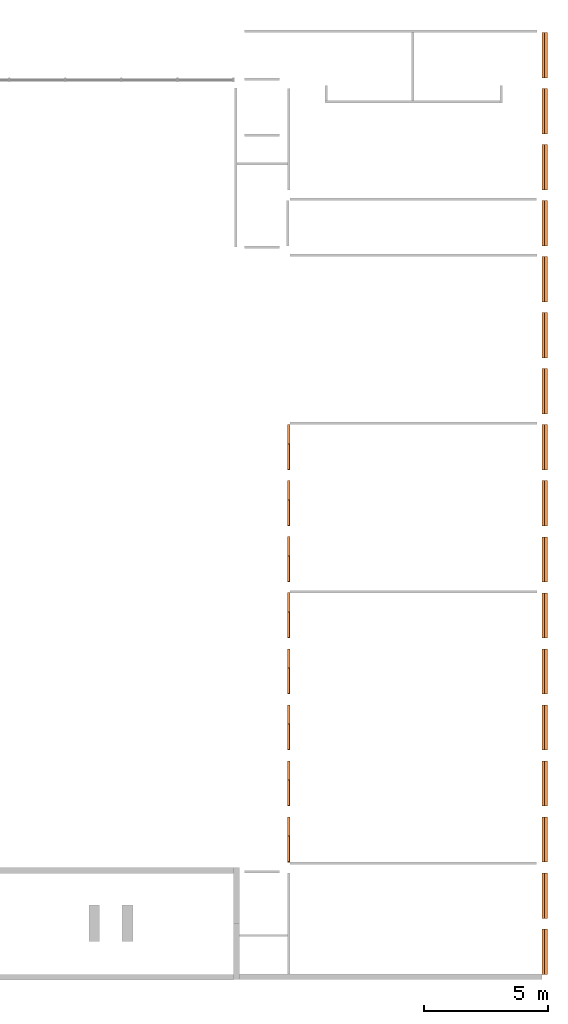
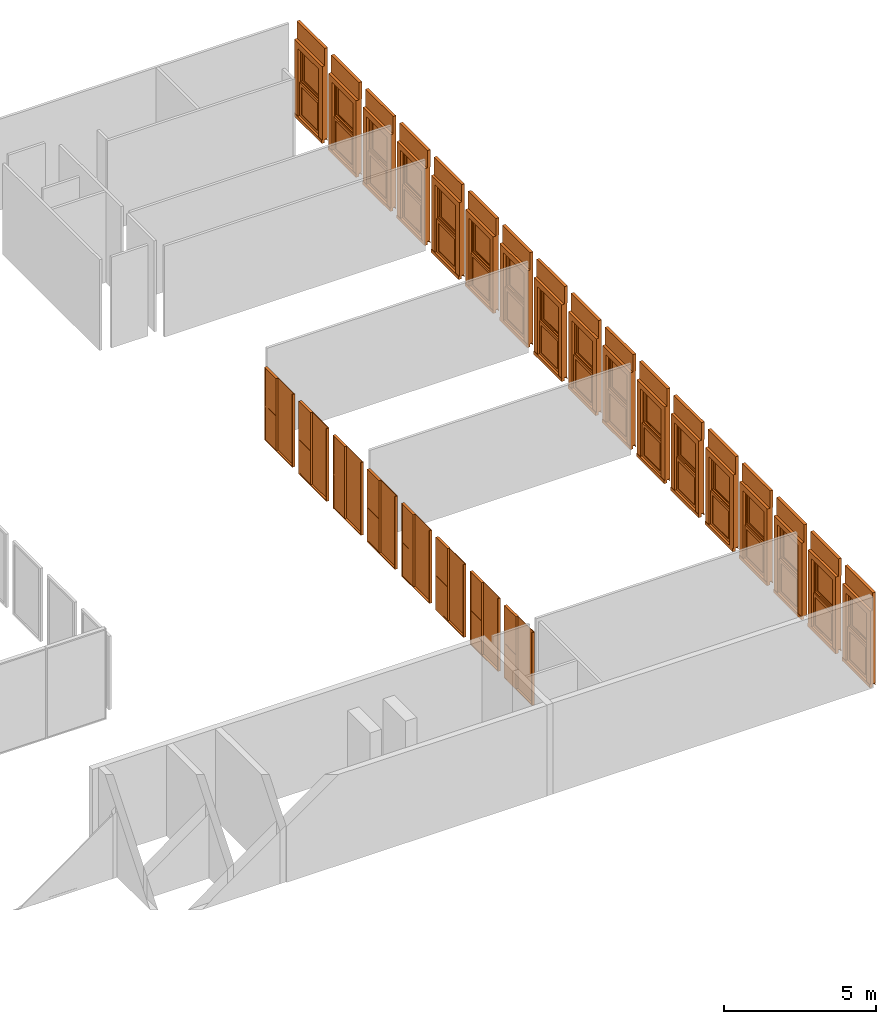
# One storey, part 15 of 15: 25 proxies.
"""IFC2X3 building model written with IfcOpenShell, lengths in millimetres."""

from ifc_helpers import new_model, entity, si_unit, converted_unit, derived_unit, direction, frame, frame_2d, origin, origin_2d_with_axis, place, context, subcontext, project, spatial, polyline, rectangle, outline, extrude, source, transform, mapped, material, material_list, type_object, type_shapes, element, save


model = new_model("IFC2X3")

# Units and contexts
model_context = context("Model", 3, precision=0.01, world=origin(), true_north=direction((6.12303176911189e-17, 1.0)))
body_context = subcontext(model_context, "Body", "Model", "MODEL_VIEW")
ifc_project = project(units=[si_unit("LENGTHUNIT", "METRE", prefix="MILLI"), si_unit("AREAUNIT", "SQUARE_METRE"), si_unit("VOLUMEUNIT", "CUBIC_METRE"), converted_unit("PLANEANGLEUNIT", "DEGREE", entity("IfcRatioMeasure", 0.0174532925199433), si_unit("PLANEANGLEUNIT", "RADIAN"), dimensions=[0, 0, 0, 0, 0, 0, 0]), si_unit("MASSUNIT", "GRAM", prefix="KILO"), derived_unit("MASSDENSITYUNIT", [(si_unit("MASSUNIT", "GRAM", prefix="KILO"), 1), (si_unit("LENGTHUNIT", "METRE"), -3)]), derived_unit("MOMENTOFINERTIAUNIT", [(si_unit("LENGTHUNIT", "METRE"), 4)]), si_unit("TIMEUNIT", "SECOND"), si_unit("FREQUENCYUNIT", "HERTZ"), si_unit("THERMODYNAMICTEMPERATUREUNIT", "DEGREE_CELSIUS"), derived_unit("THERMALTRANSMITTANCEUNIT", [(si_unit("MASSUNIT", "GRAM", prefix="KILO"), 1), (si_unit("THERMODYNAMICTEMPERATUREUNIT", "KELVIN"), -1), (si_unit("TIMEUNIT", "SECOND"), -3)]), derived_unit("VOLUMETRICFLOWRATEUNIT", [(si_unit("LENGTHUNIT", "METRE"), 3), (si_unit("TIMEUNIT", "SECOND"), -1)]), si_unit("ELECTRICCURRENTUNIT", "AMPERE"), si_unit("ELECTRICVOLTAGEUNIT", "VOLT"), si_unit("POWERUNIT", "WATT"), si_unit("FORCEUNIT", "NEWTON", prefix="KILO"), si_unit("ILLUMINANCEUNIT", "LUX"), si_unit("LUMINOUSFLUXUNIT", "LUMEN"), si_unit("LUMINOUSINTENSITYUNIT", "CANDELA"), derived_unit("USERDEFINED", [(si_unit("MASSUNIT", "GRAM", prefix="KILO"), -1), (si_unit("LENGTHUNIT", "METRE"), -2), (si_unit("TIMEUNIT", "SECOND"), 3), (si_unit("LUMINOUSFLUXUNIT", "LUMEN"), 1)]), derived_unit("LINEARVELOCITYUNIT", [(si_unit("LENGTHUNIT", "METRE"), 1), (si_unit("TIMEUNIT", "SECOND"), -1)]), si_unit("PRESSUREUNIT", "PASCAL"), derived_unit("USERDEFINED", [(si_unit("LENGTHUNIT", "METRE"), -2), (si_unit("MASSUNIT", "GRAM", prefix="KILO"), 1), (si_unit("TIMEUNIT", "SECOND"), -2)]), derived_unit("LINEARFORCEUNIT", [(si_unit("MASSUNIT", "GRAM", prefix="KILO"), 1), (si_unit("LENGTHUNIT", "METRE"), 1), (si_unit("TIMEUNIT", "SECOND"), -2), (si_unit("LENGTHUNIT", "METRE"), -1)]), derived_unit("PLANARFORCEUNIT", [(si_unit("MASSUNIT", "GRAM", prefix="KILO"), 1), (si_unit("LENGTHUNIT", "METRE"), 1), (si_unit("TIMEUNIT", "SECOND"), -2), (si_unit("LENGTHUNIT", "METRE"), -2)])], contexts=[model_context])

# Site, building, storey
site_placement = place(None, frame((10627.5135316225, 21939.0796949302, 0.0)))
site = spatial("IfcSite", under=ifc_project, at=site_placement, Name="Default", CompositionType="ELEMENT")
building_placement = place(site_placement, origin())
building = spatial("IfcBuilding", under=site, at=building_placement, CompositionType="ELEMENT")
storey_placement = place(building_placement, origin())
storey = spatial("IfcBuildingStorey", under=building, at=storey_placement, Name="RDC", CompositionType="ELEMENT", Elevation=0.0)

# Proxies
ifc_material_1 = material(Name="PVC, Flexible")
ifc_material_2 = material(Name="Glass")
ifc_material_list_1 = material_list([ifc_material_1, ifc_material_2])
building_element_proxy_type_1 = type_object("IfcBuildingElementProxyType", Name="FENETRE.dwg:Fenetre ext 296+70", PredefinedType="NOTDEFINED", material=ifc_material_1)
shared_shape_1 = source(origin(), body_context, "Body", "SweptSolid", [
    extrude(rectangle(XDim=112.500043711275, YDim=1829.99999999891, at=origin_2d_with_axis()), frame((-10.4189092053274, -56.2500218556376, 2960.0), z_axis=(0.0, 0.0, 1.0), x_axis=(0.0, 1.0, 0.0)), (0.0, 0.0, 1.0), 700.0),
    extrude(outline(polyline([(27.5499763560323, -64.4170494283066), (47.5499763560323, -64.4170494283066), (47.5499763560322, -59.4170494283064), (28.7622905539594, -59.4170494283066), (7.54997635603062, 46.6946996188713), (-42.4500236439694, 46.6946996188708), (-42.4500236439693, 32.9446996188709), (-39.9500236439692, 32.9446996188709), (-39.9500236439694, 44.1946996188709), (5.83789859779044, 44.1946996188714), (27.5499763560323, -64.4170494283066)])), frame((-925.418909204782, -66.917049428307, -47.5499763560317), z_axis=(1.0, 0.0, 0.0), x_axis=(0.0, 0.0, 1.0)), (0.0, 0.0, 1.0), 1829.99999999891),
    extrude(outline(polyline([(-54.506636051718, -66.1431859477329), (58.0333803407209, -66.1431859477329), (54.4666704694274, 67.6422744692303), (-57.9934147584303, 64.6440974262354), (-54.506636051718, -66.1431859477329)])), frame((-925.418909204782, 56.2500218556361, -63.833312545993), z_axis=(1.0, 0.0, 0.0), x_axis=(0.0, -0.999644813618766, 0.0266504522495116)), (0.0, 0.0, 1.0), 1829.99999999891),
    extrude(outline(polyline([(-97.0007159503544, -55.5555555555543), (5.85738417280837, -55.5555555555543), (95.357341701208, -55.5555555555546), (95.357341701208, -45.5555555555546), (105.357341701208, -45.5555555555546), (105.357341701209, 174.444444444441), (-106.642659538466, 174.444444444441), (-106.642659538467, -45.5555555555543), (-97.0007159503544, -45.5555555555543), (-97.0007159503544, -55.5555555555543)])), frame((849.025535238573, -5.85738417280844, 0.0), z_axis=(0.0, 0.0, 1.0), x_axis=(0.0, 1.0, 0.0)), (0.0, 0.0, 1.0), 2960.0),
    extrude(rectangle(XDim=1369.99999999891, YDim=199.499957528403, at=origin_2d_with_axis()), frame((-10.4189092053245, -0.250021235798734, 2730.0), z_axis=(0.0, 0.0, 1.0), x_axis=(-1.0, 0.0, 0.0)), (0.0, 0.0, 1.0), 230.000000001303),
    extrude(outline(polyline([(-55.5555555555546, 97.0007159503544), (-55.5555555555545, -5.85738417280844), (-55.5555555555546, -95.357341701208), (-45.5555555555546, -95.3573417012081), (-45.5555555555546, -105.357341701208), (174.444444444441, -105.357341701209), (174.444444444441, 106.642659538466), (-45.5555555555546, 106.642659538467), (-45.5555555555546, 97.0007159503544), (-55.5555555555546, 97.0007159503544)])), frame((-869.863353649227, -5.85738417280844, 0.0), z_axis=(0.0, 0.0, -1.0), x_axis=(1.0, 0.0, 0.0)), (0.0, 0.0, -1.0), 2960.0),
    extrude(rectangle(XDim=1079.99999999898, YDim=1.0, at=origin_2d_with_axis()), frame((-10.4189092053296, 19.5, 130.0), z_axis=(0.0, 0.0, 1.0), x_axis=(-1.0, 0.0, 0.0)), (0.0, 0.0, 1.0), 1120.00000000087),
    extrude(rectangle(XDim=1079.99999999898, YDim=1.0, at=origin_2d_with_axis()), frame((-10.4189092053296, 30.5, 130.0), z_axis=(0.0, 0.0, 1.0), x_axis=(-1.0, 0.0, 0.0)), (0.0, 0.0, 1.0), 1120.00000000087),
    extrude(rectangle(XDim=1079.99999999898, YDim=1.0, at=frame_2d((0.0, 4.21884749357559e-15), x_axis=(1.0, 0.0))), frame((-10.4189092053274, -69.5, 1465.0), z_axis=(0.0, 0.0, 1.0), x_axis=(-1.0, 0.0, 0.0)), (0.0, 0.0, 1.0), 1120.0),
    extrude(rectangle(XDim=1079.99999999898, YDim=0.999999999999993, at=frame_2d((0.0, -8.46545056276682e-15), x_axis=(1.0, 0.0))), frame((-10.4189092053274, -80.5, 1465.0), z_axis=(0.0, 0.0, 1.0), x_axis=(-1.0, 0.0, 0.0)), (0.0, 0.0, 1.0), 1120.00000000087),
    extrude(outline(polyline([(-685.0, -1365.0), (0.0, -1365.0), (685.0, -1365.0), (685.0, 1365.0), (0.0, 1365.0), (-685.0, 1365.0), (-685.0, -1365.0)]), holes=[polyline([(-640.0, -1320.0), (-640.0, -45.0), (0.0, -45.0), (640.0, -45.0), (640.0, -1320.0), (0.0, -1320.0), (-640.0, -1320.0)]), polyline([(-640.0, 40.0), (-640.0, 1315.0), (0.0, 1315.0), (640.0, 1315.0), (640.0, 40.0), (0.0, 40.0), (-640.0, 40.0)])]), frame((-10.4189092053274, -50.0, 1365.0), z_axis=(0.0, 1.0, 0.0), x_axis=(1.0, 0.0, 0.0)), (0.0, 0.0, 1.0), 50.0),
    extrude(outline(polyline([(-655.0, -667.500000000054), (655.0, -667.500000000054), (655.0, 667.500000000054), (-655.0, 667.500000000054), (-655.0, -667.500000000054)]), holes=[polyline([(-540.0, 552.500000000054), (540.0, 552.500000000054), (540.0, -567.500000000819), (-540.0, -567.500000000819), (-540.0, 552.500000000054)])]), frame((-10.4189092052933, 0.0, 697.500000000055), z_axis=(0.0, 1.0, 0.0), x_axis=(-1.0, 0.0, 0.0)), (0.0, 0.0, 1.0), 50.0),
    extrude(outline(polyline([(-655.0, -667.500000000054), (655.0, -667.500000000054), (655.0, 667.500000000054), (-655.0, 667.500000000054), (-655.0, -667.500000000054)]), holes=[polyline([(-540.0, 552.500000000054), (540.0, 552.500000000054), (540.0, -567.500000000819), (-540.0, -567.500000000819), (-540.0, 552.500000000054)])]), frame((-10.4189092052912, -100.0, 2032.50000000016), z_axis=(0.0, 1.0, 0.0), x_axis=(-1.0, 0.0, 0.0)), (0.0, 0.0, 1.0), 50.0),
])
type_shapes(building_element_proxy_type_1, [shared_shape_1])
proxy_1_placement = place(storey_placement, frame((63883.8747193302, 15361.3392142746, 0.0), z_axis=(0.0, 0.0, 1.0), x_axis=(0.0, 1.0, 0.0)))
element("IfcBuildingElementProxy", 1, at=proxy_1_placement, inside=storey, type_object=building_element_proxy_type_1, material=ifc_material_list_1, Name="FENETRE.dwg:Fenetre ext 296+70", ObjectType="FENETRE.dwg:Fenetre ext 296+70", context=body_context, shape_type="MappedRepresentation", body=[
    mapped(shared_shape_1, transform((0.0, 0.0, 0.0), scale=1.0)),
])
ifc_material_list_2 = material_list([ifc_material_1, ifc_material_2])
proxy_2_placement = place(storey_placement, frame((63883.8747193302, 13101.3392142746, 0.0), z_axis=(0.0, 0.0, 1.0), x_axis=(0.0, 1.0, 0.0)))
element("IfcBuildingElementProxy", 2, at=proxy_2_placement, inside=storey, type_object=building_element_proxy_type_1, material=ifc_material_list_2, Name="FENETRE.dwg:Fenetre ext 296+70", ObjectType="FENETRE.dwg:Fenetre ext 296+70", context=body_context, shape_type="MappedRepresentation", body=[
    mapped(shared_shape_1, transform((0.0, 0.0, 0.0), scale=1.0)),
])
ifc_material_list_3 = material_list([ifc_material_1, ifc_material_2])
proxy_3_placement = place(storey_placement, frame((63883.8747193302, 10841.3392142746, 0.0), z_axis=(0.0, 0.0, 1.0), x_axis=(0.0, 1.0, 0.0)))
element("IfcBuildingElementProxy", 3, at=proxy_3_placement, inside=storey, type_object=building_element_proxy_type_1, material=ifc_material_list_3, Name="FENETRE.dwg:Fenetre ext 296+70", ObjectType="FENETRE.dwg:Fenetre ext 296+70", context=body_context, shape_type="MappedRepresentation", body=[
    mapped(shared_shape_1, transform((0.0, 0.0, 0.0), scale=1.0)),
])
ifc_material_list_4 = material_list([ifc_material_1, ifc_material_2])
proxy_4_placement = place(storey_placement, frame((63883.8747193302, 8581.33921427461, 0.0), z_axis=(0.0, 0.0, 1.0), x_axis=(0.0, 1.0, 0.0)))
element("IfcBuildingElementProxy", 4, at=proxy_4_placement, inside=storey, type_object=building_element_proxy_type_1, material=ifc_material_list_4, Name="FENETRE.dwg:Fenetre ext 296+70", ObjectType="FENETRE.dwg:Fenetre ext 296+70", context=body_context, shape_type="MappedRepresentation", body=[
    mapped(shared_shape_1, transform((0.0, 0.0, 0.0), scale=1.0)),
])
ifc_material_list_5 = material_list([ifc_material_1, ifc_material_2])
proxy_5_placement = place(storey_placement, frame((63883.8747193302, 6321.33921427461, 0.0), z_axis=(0.0, 0.0, 1.0), x_axis=(0.0, 1.0, 0.0)))
element("IfcBuildingElementProxy", 5, at=proxy_5_placement, inside=storey, type_object=building_element_proxy_type_1, material=ifc_material_list_5, Name="FENETRE.dwg:Fenetre ext 296+70", ObjectType="FENETRE.dwg:Fenetre ext 296+70", context=body_context, shape_type="MappedRepresentation", body=[
    mapped(shared_shape_1, transform((0.0, 0.0, 0.0), scale=1.0)),
])
ifc_material_list_6 = material_list([ifc_material_1, ifc_material_2])
proxy_6_placement = place(storey_placement, frame((63883.8747193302, 4061.33921427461, 0.0), z_axis=(0.0, 0.0, 1.0), x_axis=(0.0, 1.0, 0.0)))
element("IfcBuildingElementProxy", 6, at=proxy_6_placement, inside=storey, type_object=building_element_proxy_type_1, material=ifc_material_list_6, Name="FENETRE.dwg:Fenetre ext 296+70", ObjectType="FENETRE.dwg:Fenetre ext 296+70", context=body_context, shape_type="MappedRepresentation", body=[
    mapped(shared_shape_1, transform((0.0, 0.0, 0.0), scale=1.0)),
])
ifc_material_list_7 = material_list([ifc_material_1, ifc_material_2])
proxy_7_placement = place(storey_placement, frame((63883.8747193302, 1801.33921427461, 0.0), z_axis=(0.0, 0.0, 1.0), x_axis=(0.0, 1.0, 0.0)))
element("IfcBuildingElementProxy", 7, at=proxy_7_placement, inside=storey, type_object=building_element_proxy_type_1, material=ifc_material_list_7, Name="FENETRE.dwg:Fenetre ext 296+70", ObjectType="FENETRE.dwg:Fenetre ext 296+70", context=body_context, shape_type="MappedRepresentation", body=[
    mapped(shared_shape_1, transform((0.0, 0.0, 0.0), scale=1.0)),
])
ifc_material_list_8 = material_list([ifc_material_1, ifc_material_2])
proxy_8_placement = place(storey_placement, frame((63883.8747193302, -458.660785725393, 0.0), z_axis=(0.0, 0.0, 1.0), x_axis=(0.0, 1.0, 0.0)))
element("IfcBuildingElementProxy", 8, at=proxy_8_placement, inside=storey, type_object=building_element_proxy_type_1, material=ifc_material_list_8, Name="FENETRE.dwg:Fenetre ext 296+70", ObjectType="FENETRE.dwg:Fenetre ext 296+70", context=body_context, shape_type="MappedRepresentation", body=[
    mapped(shared_shape_1, transform((0.0, 0.0, 0.0), scale=1.0)),
])
ifc_material_list_9 = material_list([ifc_material_1, ifc_material_2])
proxy_9_placement = place(storey_placement, frame((63883.8747193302, -2718.66078572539, 0.0), z_axis=(0.0, 0.0, 1.0), x_axis=(0.0, 1.0, 0.0)))
element("IfcBuildingElementProxy", 9, at=proxy_9_placement, inside=storey, type_object=building_element_proxy_type_1, material=ifc_material_list_9, Name="FENETRE.dwg:Fenetre ext 296+70", ObjectType="FENETRE.dwg:Fenetre ext 296+70", context=body_context, shape_type="MappedRepresentation", body=[
    mapped(shared_shape_1, transform((0.0, 0.0, 0.0), scale=1.0)),
])
ifc_material_list_10 = material_list([ifc_material_1, ifc_material_2])
proxy_10_placement = place(storey_placement, frame((63883.8747193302, -4978.6607857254, 0.0), z_axis=(0.0, 0.0, 1.0), x_axis=(0.0, 1.0, 0.0)))
element("IfcBuildingElementProxy", 10, at=proxy_10_placement, inside=storey, type_object=building_element_proxy_type_1, material=ifc_material_list_10, Name="FENETRE.dwg:Fenetre ext 296+70", ObjectType="FENETRE.dwg:Fenetre ext 296+70", context=body_context, shape_type="MappedRepresentation", body=[
    mapped(shared_shape_1, transform((0.0, 0.0, 0.0), scale=1.0)),
])
ifc_material_list_11 = material_list([ifc_material_1, ifc_material_2])
proxy_11_placement = place(storey_placement, frame((63883.8747193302, -7238.6607857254, 0.0), z_axis=(0.0, 0.0, 1.0), x_axis=(0.0, 1.0, 0.0)))
element("IfcBuildingElementProxy", 11, at=proxy_11_placement, inside=storey, type_object=building_element_proxy_type_1, material=ifc_material_list_11, Name="FENETRE.dwg:Fenetre ext 296+70", ObjectType="FENETRE.dwg:Fenetre ext 296+70", context=body_context, shape_type="MappedRepresentation", body=[
    mapped(shared_shape_1, transform((0.0, 0.0, 0.0), scale=1.0)),
])
ifc_material_list_12 = material_list([ifc_material_1, ifc_material_2])
proxy_12_placement = place(storey_placement, frame((63883.8747193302, -9498.6607857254, 0.0), z_axis=(0.0, 0.0, 1.0), x_axis=(0.0, 1.0, 0.0)))
element("IfcBuildingElementProxy", 12, at=proxy_12_placement, inside=storey, type_object=building_element_proxy_type_1, material=ifc_material_list_12, Name="FENETRE.dwg:Fenetre ext 296+70", ObjectType="FENETRE.dwg:Fenetre ext 296+70", context=body_context, shape_type="MappedRepresentation", body=[
    mapped(shared_shape_1, transform((0.0, 0.0, 0.0), scale=1.0)),
])
ifc_material_list_13 = material_list([ifc_material_1, ifc_material_2])
proxy_13_placement = place(storey_placement, frame((63883.8747193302, -11758.6607857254, 0.0), z_axis=(0.0, 0.0, 1.0), x_axis=(0.0, 1.0, 0.0)))
element("IfcBuildingElementProxy", 13, at=proxy_13_placement, inside=storey, type_object=building_element_proxy_type_1, material=ifc_material_list_13, Name="FENETRE.dwg:Fenetre ext 296+70", ObjectType="FENETRE.dwg:Fenetre ext 296+70", context=body_context, shape_type="MappedRepresentation", body=[
    mapped(shared_shape_1, transform((0.0, 0.0, 0.0), scale=1.0)),
])
ifc_material_list_14 = material_list([ifc_material_1, ifc_material_2])
proxy_14_placement = place(storey_placement, frame((63883.8747193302, -14018.6607857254, 0.0), z_axis=(0.0, 0.0, 1.0), x_axis=(0.0, 1.0, 0.0)))
element("IfcBuildingElementProxy", 14, at=proxy_14_placement, inside=storey, type_object=building_element_proxy_type_1, material=ifc_material_list_14, Name="FENETRE.dwg:Fenetre ext 296+70", ObjectType="FENETRE.dwg:Fenetre ext 296+70", context=body_context, shape_type="MappedRepresentation", body=[
    mapped(shared_shape_1, transform((0.0, 0.0, 0.0), scale=1.0)),
])
ifc_material_list_15 = material_list([ifc_material_1, ifc_material_2])
proxy_15_placement = place(storey_placement, frame((63883.8747193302, -16278.6607857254, 0.0), z_axis=(0.0, 0.0, 1.0), x_axis=(0.0, 1.0, 0.0)))
element("IfcBuildingElementProxy", 15, at=proxy_15_placement, inside=storey, type_object=building_element_proxy_type_1, material=ifc_material_list_15, Name="FENETRE.dwg:Fenetre ext 296+70", ObjectType="FENETRE.dwg:Fenetre ext 296+70", context=body_context, shape_type="MappedRepresentation", body=[
    mapped(shared_shape_1, transform((0.0, 0.0, 0.0), scale=1.0)),
])
ifc_material_list_16 = material_list([ifc_material_1, ifc_material_2])
proxy_16_placement = place(storey_placement, frame((63883.8747193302, -18538.6607857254, 0.0), z_axis=(0.0, 0.0, 1.0), x_axis=(0.0, 1.0, 0.0)))
element("IfcBuildingElementProxy", 16, at=proxy_16_placement, inside=storey, type_object=building_element_proxy_type_1, material=ifc_material_list_16, Name="FENETRE.dwg:Fenetre ext 296+70", ObjectType="FENETRE.dwg:Fenetre ext 296+70", context=body_context, shape_type="MappedRepresentation", body=[
    mapped(shared_shape_1, transform((0.0, 0.0, 0.0), scale=1.0)),
])
ifc_material_list_17 = material_list([ifc_material_1, ifc_material_2])
proxy_17_placement = place(storey_placement, frame((63883.8747193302, -20798.6607857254, 0.0), z_axis=(0.0, 0.0, 1.0), x_axis=(0.0, 1.0, 0.0)))
element("IfcBuildingElementProxy", 17, at=proxy_17_placement, inside=storey, type_object=building_element_proxy_type_1, material=ifc_material_list_17, Name="FENETRE.dwg:Fenetre ext 296+70", ObjectType="FENETRE.dwg:Fenetre ext 296+70", context=body_context, shape_type="MappedRepresentation", body=[
    mapped(shared_shape_1, transform((0.0, 0.0, 0.0), scale=1.0)),
])
ifc_material_3 = material(Name="Plywood, Sheathing")
ifc_material_list_18 = material_list([ifc_material_3, ifc_material_2])
building_element_proxy_type_2 = type_object("IfcBuildingElementProxyType", Name="Porte noire:Porte noire", PredefinedType="NOTDEFINED", material=ifc_material_3)
shared_shape_2 = source(origin(), body_context, "Body", "SweptSolid", [
    extrude(rectangle(XDim=100.0, YDim=23.0000000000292, at=origin_2d_with_axis()), frame((-950.918997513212, -50.0, 8.73189890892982), z_axis=(0.0, 0.0, 1.0), x_axis=(0.0, 1.0, 0.0)), (0.0, 0.0, 1.0), 2933.34951039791),
    extrude(rectangle(XDim=19.0, YDim=1038.0, at=frame_2d((7.99360577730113e-15, 0.0), x_axis=(1.0, 0.0))), frame((-420.418997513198, -87.5, 43.7318989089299), z_axis=(0.0, 0.0, 1.0), x_axis=(0.0, 1.0, 0.0)), (0.0, 0.0, 1.0), 2898.5),
    extrude(rectangle(XDim=100.0, YDim=1775.0, at=origin_2d_with_axis()), frame((-51.9189975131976, -50.0, 8.73189890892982), z_axis=(0.0, 0.0, 1.0), x_axis=(0.0, 1.0, 0.0)), (0.0, 0.0, 1.0), 35.0000000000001),
    extrude(rectangle(XDim=100.0, YDim=35.0000000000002, at=origin_2d_with_axis()), frame((853.081002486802, -50.0, 8.73189890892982), z_axis=(0.0, 0.0, 1.0), x_axis=(0.0, 1.0, 0.0)), (0.0, 0.0, 1.0), 2898.5),
    extrude(rectangle(XDim=100.0, YDim=740.0, at=origin_2d_with_axis()), frame((500.581002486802, -50.0, 2907.23189890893), z_axis=(0.0, 0.0, 1.0), x_axis=(0.0, 1.0, 0.0)), (0.0, 0.0, 1.0), 35.0000000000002),
    extrude(rectangle(XDim=100.0, YDim=31.9999999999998, at=origin_2d_with_axis()), frame((114.581002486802, -50.0, 43.7318989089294), z_axis=(0.0, 0.0, 1.0), x_axis=(0.0, 1.0, 0.0)), (0.0, 0.0, 1.0), 2898.5),
    extrude(rectangle(XDim=100.0, YDim=705.0, at=origin_2d_with_axis()), frame((483.081002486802, -50.0, 1343.73189890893), z_axis=(0.0, 0.0, 1.0), x_axis=(0.0, 1.0, 0.0)), (0.0, 0.0, 1.0), 55.0),
    extrude(outline(polyline([(-352.5, -650.0), (352.5, -650.0), (352.5, 650.0), (-352.5, 650.0), (-352.5, -650.0)]), holes=[polyline([(342.5, 640.0), (342.5, -640.0), (-342.5, -640.0), (-342.5, 640.0), (342.5, 640.0)])]), frame((483.081002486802, -80.0, 693.73189890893), z_axis=(0.0, 1.0, 0.0), x_axis=(1.0, 0.0, 0.0)), (0.0, 0.0, 1.0), 70.0),
    extrude(outline(polyline([(-754.25, -352.5), (754.25, -352.5), (754.25, 352.5), (-754.25, 352.5), (-754.25, -352.5)]), holes=[polyline([(744.25, 342.5), (744.25, -342.5), (-744.25, -342.5), (-744.25, 342.5), (744.25, 342.5)])]), frame((483.081002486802, -80.0, 2152.98189890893), z_axis=(0.0, 1.0, 0.0), x_axis=(0.0, 0.0, 1.0)), (0.0, 0.0, 1.0), 70.0),
    extrude(outline(polyline([(-640.0, -342.5), (640.0, -342.5), (640.0, 342.5), (-640.0, 342.5), (-640.0, -342.5)]), holes=[polyline([(630.0, 332.5), (630.0, -332.5), (-630.0, -332.5), (-630.0, 332.5), (630.0, 332.5)])]), frame((483.081002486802, -81.0, 693.731898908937), z_axis=(0.0, 1.0, 0.0), x_axis=(0.0, 0.0, 1.0)), (0.0, 0.0, 1.0), 3.99999999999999),
    extrude(outline(polyline([(-744.25, -342.5), (744.25, -342.5), (744.25, 342.5), (-744.25, 342.5), (-744.25, -342.5)]), holes=[polyline([(734.25, 332.5), (734.25, -332.5), (-734.25, -332.5), (-734.25, 332.5), (734.25, 332.5)])]), frame((483.081002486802, -81.0, 2152.98189890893), z_axis=(0.0, 1.0, 0.0), x_axis=(0.0, 0.0, 1.0)), (0.0, 0.0, 1.0), 3.99999999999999),
    extrude(outline(polyline([(-640.0, -342.5), (640.0, -342.5), (640.0, 342.5), (-640.0, 342.5), (-640.0, -342.5)]), holes=[polyline([(630.0, 332.5), (630.0, -332.5), (-630.0, -332.5), (-630.0, 332.5), (630.0, 332.5)])]), frame((483.081002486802, -15.0, 693.782575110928), z_axis=(0.0, 1.0, 0.0), x_axis=(0.0, 0.0, 1.0)), (0.0, 0.0, 1.0), 5.0),
    extrude(outline(polyline([(-744.25, -342.5), (744.25, -342.5), (744.25, 342.5), (-744.25, 342.5), (-744.25, -342.5)]), holes=[polyline([(734.25, 332.5), (734.25, -332.5), (-734.25, -332.5), (-734.25, 332.5), (734.25, 332.5)])]), frame((483.081002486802, -15.0, 2153.03257511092), z_axis=(0.0, 1.0, 0.0), x_axis=(0.0, 0.0, 1.0)), (0.0, 0.0, 1.0), 5.0),
    extrude(rectangle(XDim=2.0, YDim=665.0, at=frame_2d((8.43769498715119e-15, 0.0), x_axis=(1.0, 0.0))), frame((483.081002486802, -79.0, 1418.73189890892), z_axis=(0.0, 0.0, 1.0), x_axis=(0.0, 1.0, 0.0)), (0.0, 0.0, 1.0), 1468.50000000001),
    extrude(rectangle(XDim=2.0, YDim=665.0, at=frame_2d((8.43769498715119e-15, 0.0), x_axis=(1.0, 0.0))), frame((483.081002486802, -79.0, 63.7318989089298), z_axis=(0.0, 0.0, 1.0), x_axis=(0.0, 1.0, 0.0)), (0.0, 0.0, 1.0), 1260.0),
    extrude(rectangle(XDim=2.0, YDim=665.0, at=frame_2d((1.0547118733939e-15, 0.0), x_axis=(1.0, 0.0))), frame((483.081002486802, -13.0, 1418.78257511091), z_axis=(0.0, 0.0, 1.0), x_axis=(0.0, 1.0, 0.0)), (0.0, 0.0, 1.0), 1468.50000000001),
    extrude(rectangle(XDim=2.0, YDim=665.0, at=frame_2d((1.0547118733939e-15, 0.0), x_axis=(1.0, 0.0))), frame((483.081002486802, -13.0, 63.7825751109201), z_axis=(0.0, 0.0, 1.0), x_axis=(0.0, 1.0, 0.0)), (0.0, 0.0, 1.0), 1260.0),
])
type_shapes(building_element_proxy_type_2, [shared_shape_2])
proxy_18_placement = place(storey_placement, frame((53515.1232861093, -422.660697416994, 0.0), z_axis=(0.0, 0.0, 1.0), x_axis=(0.0, 1.0, 0.0)))
element("IfcBuildingElementProxy", 18, at=proxy_18_placement, inside=storey, type_object=building_element_proxy_type_2, material=ifc_material_list_18, Name="Porte noire:Porte noire", ObjectType="Porte noire:Porte noire", context=body_context, shape_type="MappedRepresentation", body=[
    mapped(shared_shape_2, transform((0.0, 0.0, 0.0), scale=1.0)),
])
ifc_material_list_19 = material_list([ifc_material_3, ifc_material_2])
proxy_19_placement = place(storey_placement, frame((53515.1232861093, -2682.66069741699, 0.0), z_axis=(0.0, 0.0, 1.0), x_axis=(0.0, 1.0, 0.0)))
element("IfcBuildingElementProxy", 19, at=proxy_19_placement, inside=storey, type_object=building_element_proxy_type_2, material=ifc_material_list_19, Name="Porte noire:Porte noire", ObjectType="Porte noire:Porte noire", context=body_context, shape_type="MappedRepresentation", body=[
    mapped(shared_shape_2, transform((0.0, 0.0, 0.0), scale=1.0)),
])
ifc_material_list_20 = material_list([ifc_material_3, ifc_material_2])
proxy_20_placement = place(storey_placement, frame((53515.1232861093, -4942.66069741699, 0.0), z_axis=(0.0, 0.0, 1.0), x_axis=(0.0, 1.0, 0.0)))
element("IfcBuildingElementProxy", 20, at=proxy_20_placement, inside=storey, type_object=building_element_proxy_type_2, material=ifc_material_list_20, Name="Porte noire:Porte noire", ObjectType="Porte noire:Porte noire", context=body_context, shape_type="MappedRepresentation", body=[
    mapped(shared_shape_2, transform((0.0, 0.0, 0.0), scale=1.0)),
])
ifc_material_list_21 = material_list([ifc_material_3, ifc_material_2])
proxy_21_placement = place(storey_placement, frame((53515.1232861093, -7202.66069741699, 0.0), z_axis=(0.0, 0.0, 1.0), x_axis=(0.0, 1.0, 0.0)))
element("IfcBuildingElementProxy", 21, at=proxy_21_placement, inside=storey, type_object=building_element_proxy_type_2, material=ifc_material_list_21, Name="Porte noire:Porte noire", ObjectType="Porte noire:Porte noire", context=body_context, shape_type="MappedRepresentation", body=[
    mapped(shared_shape_2, transform((0.0, 0.0, 0.0), scale=1.0)),
])
ifc_material_list_22 = material_list([ifc_material_3, ifc_material_2])
proxy_22_placement = place(storey_placement, frame((53515.1232861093, -9462.66069741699, 0.0), z_axis=(0.0, 0.0, 1.0), x_axis=(0.0, 1.0, 0.0)))
element("IfcBuildingElementProxy", 22, at=proxy_22_placement, inside=storey, type_object=building_element_proxy_type_2, material=ifc_material_list_22, Name="Porte noire:Porte noire", ObjectType="Porte noire:Porte noire", context=body_context, shape_type="MappedRepresentation", body=[
    mapped(shared_shape_2, transform((0.0, 0.0, 0.0), scale=1.0)),
])
ifc_material_list_23 = material_list([ifc_material_3, ifc_material_2])
proxy_23_placement = place(storey_placement, frame((53515.1232861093, -11722.660697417, 0.0), z_axis=(0.0, 0.0, 1.0), x_axis=(0.0, 1.0, 0.0)))
element("IfcBuildingElementProxy", 23, at=proxy_23_placement, inside=storey, type_object=building_element_proxy_type_2, material=ifc_material_list_23, Name="Porte noire:Porte noire", ObjectType="Porte noire:Porte noire", context=body_context, shape_type="MappedRepresentation", body=[
    mapped(shared_shape_2, transform((0.0, 0.0, 0.0), scale=1.0)),
])
ifc_material_list_24 = material_list([ifc_material_3, ifc_material_2])
proxy_24_placement = place(storey_placement, frame((53515.1232861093, -13982.660697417, 0.0), z_axis=(0.0, 0.0, 1.0), x_axis=(0.0, 1.0, 0.0)))
element("IfcBuildingElementProxy", 24, at=proxy_24_placement, inside=storey, type_object=building_element_proxy_type_2, material=ifc_material_list_24, Name="Porte noire:Porte noire", ObjectType="Porte noire:Porte noire", context=body_context, shape_type="MappedRepresentation", body=[
    mapped(shared_shape_2, transform((0.0, 0.0, 0.0), scale=1.0)),
])
ifc_material_list_25 = material_list([ifc_material_3, ifc_material_2])
proxy_25_placement = place(storey_placement, frame((53515.1232861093, -16242.660697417, 0.0), z_axis=(0.0, 0.0, 1.0), x_axis=(0.0, 1.0, 0.0)))
element("IfcBuildingElementProxy", 25, at=proxy_25_placement, inside=storey, type_object=building_element_proxy_type_2, material=ifc_material_list_25, Name="Porte noire:Porte noire", ObjectType="Porte noire:Porte noire", context=body_context, shape_type="MappedRepresentation", body=[
    mapped(shared_shape_2, transform((0.0, 0.0, 0.0), scale=1.0)),
])

save(model, "model.ifc")
